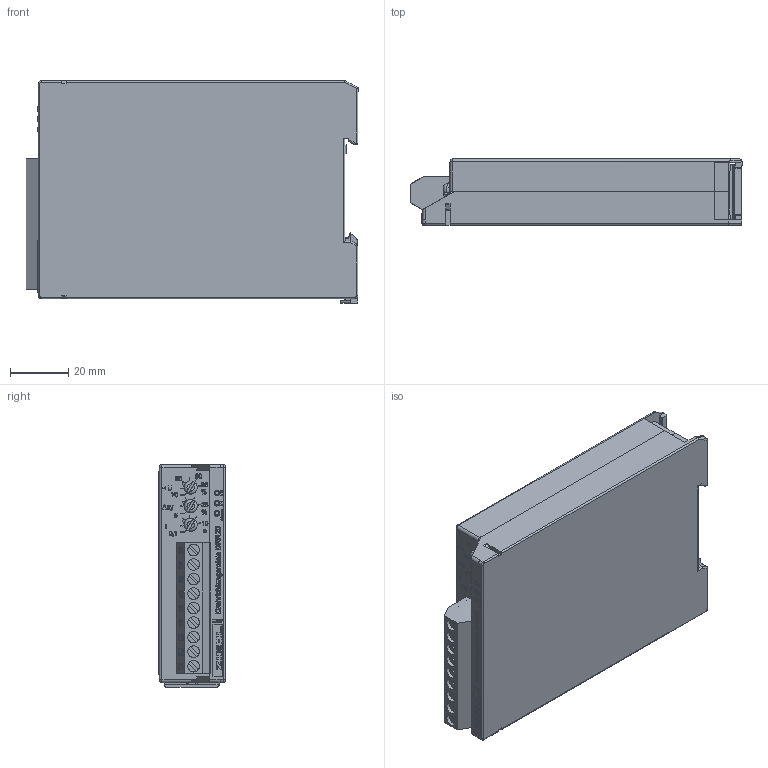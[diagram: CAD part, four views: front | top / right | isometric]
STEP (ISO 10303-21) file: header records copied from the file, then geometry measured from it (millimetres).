
FILE_DESCRIPTION (( 'STEP AP214' ), '1' );
FILE_NAME ('12210-1902-00_3D.STEP', '2014-05-07T12:56:04', ( '' ), ( '' ), 'SwSTEP 2.0', 'SolidWorks 2014', '' );
FILE_SCHEMA (( 'AUTOMOTIVE_DESIGN' ));
Length unit declared in the file: millimetre
Products named in the file (12): K-Riegel; K-Leiterpklatte 60 lang; 1045 1920 K-Deckel; 1045 1940 K-UT_3D; 12210-1902-00_3D; Potiknopf_3D f黵 Modelle; 12210-1201-00 DRR20 Skalen_3D; 12210-1203-00 DRR20 LED_3D; 12210-1205-00 Klemmen_3D; 31147109; 12210-1206-00 DRR20 Typenschild_3D; pan head cross recess screw_din_ISO 7045 - M3 x 4 - Z --- 4N
Assembly tree (13 placements, depth 2):
  12210-1902-00_3D
    1045 1940 K-UT_3D
    1045 1920 K-Deckel
    K-Leiterpklatte 60 lang
    K-Riegel
    pan head cross recess screw_din_ISO 7045 - M3 x 4 - Z --- 4N
    12210-1206-00 DRR20 Typenschild_3D
    31147109
    12210-1205-00 Klemmen_3D
    12210-1203-00 DRR20 LED_3D
    12210-1201-00 DRR20 Skalen_3D
    Potiknopf_3D f黵 Modelle  x3
Bounding box: 114.27 x 22.91 x 76.65 mm (x, y, z)
Volume: 49670.3 mm3; surface area: 63878.1 mm2
Topology: 257 solids, 309 shells, 3704 faces, 8880 edges, 5833 vertices
Faces by surface type: plane 2644, bspline 765, cylinder 210, torus 41, cone 22, sphere 22
Full cylindrical faces by diameter (mm): 1 x9, 1.5 x7, 2.8 x2, 3 x12, 3.1 x9, 3.5 x3, 3.6 x1, 4 x12, 4.2 x1, 5.6 x1, 6 x1, 6.8 x1, 7 x1, 7.2 x1, 9 x1
Entity records: 125317 total; most frequent: CARTESIAN_POINT 40291, ORIENTED_EDGE 17193, DIRECTION 13166, EDGE_CURVE 8598, VECTOR 6588, LINE 6588, VERTEX_POINT 5717, EDGE_LOOP 3976
